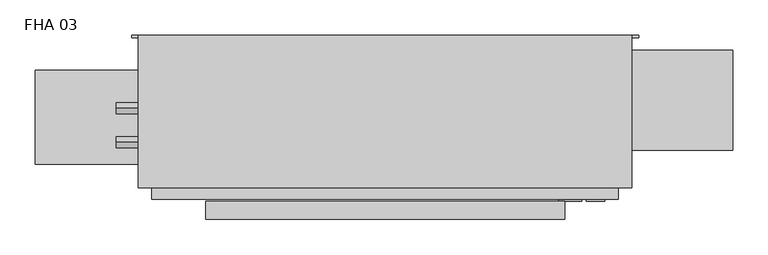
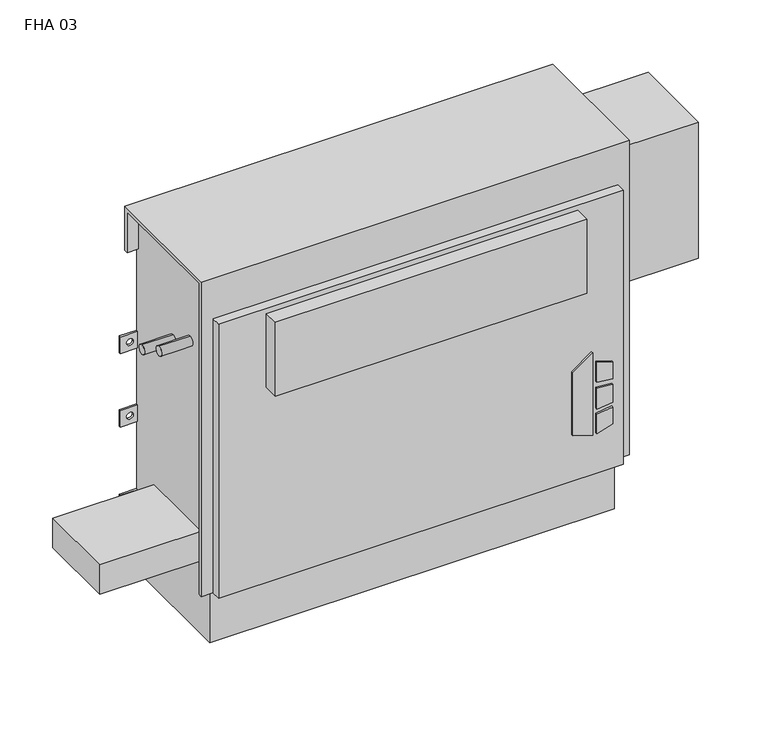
"""IFC4 building model written with IfcOpenShell, lengths in millimetres: proxy geometry, Vertical_Fan_Coil_Unit_-_FHA_-_IEC_-_2-Pipe_FS-FR_LH_2022 : FHA 03."""

import ifcopenshell
import ifcopenshell.guid

model = None  # the IFC model being written
_history = None  # IfcOwnerHistory: only IFC2X3 demands one
_inside = {}  # id of a spatial element -> (the spatial element, [elements in it])
_under = {}  # id of a project, library or spatial element -> (it, [spatial elements below it])
_declared = {}  # id of a project -> (the project, [libraries it declares])
_typed = {}  # id of a type object -> (the type object, [elements of that type])
_made_of = {}  # id of a material, layer set ... -> (it, [elements and type objects made of it])


def new_model(schema):
    """Start an empty IFC model of exactly this schema.

    Asked for "IFC4X3", IfcOpenShell would pick the latest addendum, in which some entities
    have other attributes; the version numbers below select the first issue.
    IFC2X3 requires an IfcOwnerHistory on every rooted entity: one is made here for all.
    """
    global model, _history
    if schema == "IFC4X3":
        model = ifcopenshell.file(schema_version=(4, 3, 0, 0))
    else:
        model = ifcopenshell.file(schema=schema)
    _inside.clear()
    _under.clear()
    _declared.clear()
    _typed.clear()
    _made_of.clear()
    _history = None
    if model.schema == "IFC2X3":
        org = make("IfcOrganization", Name="unknown")
        user = make(
            "IfcPersonAndOrganization",
            ThePerson=make("IfcPerson", FamilyName="unknown"),
            TheOrganization=org,
        )
        app = make(
            "IfcApplication",
            ApplicationDeveloper=org,
            Version="unknown",
            ApplicationFullName="unknown",
            ApplicationIdentifier="unknown",
        )
        _history = make(
            "IfcOwnerHistory",
            OwningUser=user,
            OwningApplication=app,
            ChangeAction="ADDED",
            CreationDate=0,
        )
    return model


def make(cls, **values):
    """One entity of the class cls with the attributes given. An attribute that is None is left unset."""
    return model.create_entity(
        cls, **{name: value for name, value in values.items() if value is not None}
    )


def rooted(cls, **values):
    """An entity with a GlobalId (a new one), such as an element, a storey or a relation."""
    return make(cls, GlobalId=ifcopenshell.guid.new(), OwnerHistory=_history, **values)


def si_unit(unit_type, name, prefix=None):
    """IfcSIUnit, for example si_unit("LENGTHUNIT", "METRE", prefix="MILLI")."""
    return make("IfcSIUnit", UnitType=unit_type, Prefix=prefix, Name=name)


def assignment(units):
    """IfcUnitAssignment: the units of a project."""
    return None if units is None else make("IfcUnitAssignment", Units=units)


def point(xyz):
    """IfcCartesianPoint."""
    return None if xyz is None else make("IfcCartesianPoint", Coordinates=xyz)


def direction(xyz):
    """IfcDirection."""
    return None if xyz is None else make("IfcDirection", DirectionRatios=xyz)


def frame(location, z_axis=None, x_axis=None):
    """IfcAxis2Placement3D, a coordinate frame: its origin and axes. An axis left out is left unset."""
    return make(
        "IfcAxis2Placement3D",
        Location=point(location),
        Axis=direction(z_axis),
        RefDirection=direction(x_axis),
    )


def frame_2d(location, x_axis=None):
    """IfcAxis2Placement2D, a coordinate frame in the plane: its origin and x axis."""
    return make(
        "IfcAxis2Placement2D", Location=point(location), RefDirection=direction(x_axis)
    )


def origin():
    """The frame at (0, 0, 0) with its axes left unset."""
    return frame((0.0, 0.0, 0.0))


def place(relative_to, where):
    """IfcLocalPlacement: puts the frame where relative to a parent placement (None: the world)."""
    return make(
        "IfcLocalPlacement", PlacementRelTo=relative_to, RelativePlacement=where
    )


def context(
    kind, dimensions, precision=None, world=None, true_north=None, identifier=None
):
    """IfcGeometricRepresentationContext, for example the 3D "Model" context."""
    return make(
        "IfcGeometricRepresentationContext",
        ContextIdentifier=identifier,
        ContextType=kind,
        CoordinateSpaceDimension=dimensions,
        Precision=precision,
        WorldCoordinateSystem=world,
        TrueNorth=true_north,
    )


def project(units=None, contexts=None):
    """IfcProject with its units and contexts."""
    return rooted(
        "IfcProject",
        Name="project",
        RepresentationContexts=contexts,
        UnitsInContext=assignment(units),
    )


def spatial(cls, under=None, at=None, **own):
    """A site, building, storey or space (cls), placed at a placement, below another one or the project."""
    s = rooted(cls, ObjectPlacement=at, **own)
    if under is not None:
        _under.setdefault(under.id(), (under, []))[1].append(s)
    return s


def polyline(points):
    """IfcPolyline through the points."""
    return make("IfcPolyline", Points=[point(p) for p in points])


def circle_curve(where, radius):
    """IfcCircle in the frame where."""
    return make("IfcCircle", Position=where, Radius=radius)


def trimmed(basis, trim1, trim2, sense, master):
    """IfcTrimmedCurve: the piece of a basis curve between two trims."""
    return make(
        "IfcTrimmedCurve",
        BasisCurve=basis,
        Trim1=trim1,
        Trim2=trim2,
        SenseAgreement=sense,
        MasterRepresentation=master,
    )


def segment(curve, same_sense, transition):
    """IfcCompositeCurveSegment."""
    return make(
        "IfcCompositeCurveSegment",
        Transition=transition,
        SameSense=same_sense,
        ParentCurve=curve,
    )


def composite_curve(segments, self_intersect=None):
    """IfcCompositeCurve: segments joined end to end."""
    return make("IfcCompositeCurve", Segments=segments, SelfIntersect=self_intersect)


def outline(outer, holes=None, kind="AREA"):
    """IfcArbitraryClosedProfileDef: a profile drawn as a closed curve; with holes, ...WithVoids."""
    if holes is None:
        return make("IfcArbitraryClosedProfileDef", ProfileType=kind, OuterCurve=outer)
    return make(
        "IfcArbitraryProfileDefWithVoids",
        ProfileType=kind,
        OuterCurve=outer,
        InnerCurves=holes,
    )


def extrude(swept, where, along, depth):
    """IfcExtrudedAreaSolid: the profile swept, set in the frame where, extruded along a direction by depth."""
    return make(
        "IfcExtrudedAreaSolid",
        SweptArea=swept,
        Position=where,
        ExtrudedDirection=direction(along),
        Depth=depth,
    )


def shape(context_of_items, identifier, shape_type, items):
    """IfcShapeRepresentation: the items that make up one representation, for example the "Body"."""
    return make(
        "IfcShapeRepresentation",
        ContextOfItems=context_of_items,
        RepresentationIdentifier=identifier,
        RepresentationType=shape_type,
        Items=items,
    )


def source(mapping_origin, context_of_items, identifier, shape_type, items):
    """IfcRepresentationMap: a shape defined once, which mapped items show again and again."""
    return make(
        "IfcRepresentationMap",
        MappingOrigin=mapping_origin,
        MappedRepresentation=shape(context_of_items, identifier, shape_type, items),
    )


def transform(
    local_origin,
    x_axis=None,
    y_axis=None,
    z_axis=None,
    scale=None,
    scale2=None,
    scale3=None,
    uniform=True,
):
    """IfcCartesianTransformationOperator3D, or its non-uniform kind. x_axis, y_axis, z_axis: its Axis1, 2, 3."""
    if uniform:
        return make(
            "IfcCartesianTransformationOperator3D",
            Axis1=direction(x_axis),
            Axis2=direction(y_axis),
            LocalOrigin=point(local_origin),
            Scale=scale,
            Axis3=direction(z_axis),
        )
    return make(
        "IfcCartesianTransformationOperator3DnonUniform",
        Axis1=direction(x_axis),
        Axis2=direction(y_axis),
        LocalOrigin=point(local_origin),
        Scale=scale,
        Axis3=direction(z_axis),
        Scale2=scale2,
        Scale3=scale3,
    )


def mapped(mapping_source, mapping_target):
    """IfcMappedItem: shows the shape of a source again, moved by a transform."""
    return make(
        "IfcMappedItem", MappingSource=mapping_source, MappingTarget=mapping_target
    )


def made_of(thing, what):
    """Note that an element or type object is made of a material, layer set ...; save() writes the relation."""
    if what is not None:
        _made_of.setdefault(what.id(), (what, []))[1].append(thing)
    return thing


def element(
    cls,
    number,
    at=None,
    inside=None,
    cuts=None,
    type_object=None,
    material=None,
    context=None,
    identifier="Body",
    shape_type=None,
    held_by="IfcProductDefinitionShape",
    body=None,
    shapes=None,
    **own,
):
    """One element of the class cls, such as IfcWall. Its Tag is "e" and its number.

    at: its placement. inside: the storey or other place that contains it. cuts: it is an
    opening in that element (IfcRelVoidsElement). A single representation is given by context,
    identifier, shape_type and body (its items); several are given by shapes. held_by: the class
    of the entity that holds the representations. save() writes the other relations.
    """
    e = rooted(cls, Tag="e%d" % number, ObjectPlacement=at, **own)
    if body is not None:
        shapes = [shape(context, identifier, shape_type, body)]
    if shapes is not None:
        e.Representation = make(held_by, Representations=shapes)
    if inside is not None:
        _inside.setdefault(inside.id(), (inside, []))[1].append(e)
    if cuts is not None:
        rooted(
            "IfcRelVoidsElement", RelatingBuildingElement=cuts, RelatedOpeningElement=e
        )
    if type_object is not None:
        _typed.setdefault(type_object.id(), (type_object, []))[1].append(e)
    return made_of(e, material)


def aggregate(whole, parts):
    """IfcRelAggregates: a whole, such as a stair, and the parts it consists of."""
    return rooted("IfcRelAggregates", RelatingObject=whole, RelatedObjects=parts)


def save(model, path):
    """Write the relations noted so far, then the file.

    IfcRelAggregates (storeys below a building ...), IfcRelContainedInSpatialStructure (elements
    in a storey), IfcRelDefinesByType, IfcRelAssociatesMaterial and IfcRelDeclares: one each for
    every whole, place, type object, material and project.
    """
    for whole, parts in _under.values():
        aggregate(whole, parts)
    for where, things in _inside.values():
        rooted(
            "IfcRelContainedInSpatialStructure",
            RelatedElements=things,
            RelatingStructure=where,
        )
    for kind, things in _typed.values():
        rooted("IfcRelDefinesByType", RelatedObjects=things, RelatingType=kind)
    for what, things in _made_of.values():
        rooted("IfcRelAssociatesMaterial", RelatedObjects=things, RelatingMaterial=what)
    for by, libraries in _declared.values():
        rooted("IfcRelDeclares", RelatingContext=by, RelatedDefinitions=libraries)
    model.write(path)


def plane_surface(at):
    """IfcPlane: the flat surface through the origin of the frame at, square to its z axis."""
    return make("IfcPlane", Position=at)


def revolved_surface(curve, axis_point, axis_direction):
    """IfcSurfaceOfRevolution: the curve turned about the line through axis_point along axis_direction."""
    return make(
        "IfcSurfaceOfRevolution",
        SweptCurve=make("IfcArbitraryOpenProfileDef", ProfileType="CURVE", Curve=curve),
        AxisPosition=make("IfcAxis1Placement", Location=point(axis_point), Axis=direction(axis_direction)),
    )


def advanced_brep(points, edges, surfaces, faces):
    """IfcAdvancedBrep: a solid bounded by faces that lie on surfaces and meet in shared edges.

    An edge is (start, end): straight between two places in points (the first is 0);
    or (start, end, curve); or (start, end, curve, False) where it runs against its curve.
    A face is (place in surfaces, loops), or (place, loops, False) where it looks against
    its surface's normal. A loop lists edges by number (the first is 1), with a minus sign
    where the edge is run from its end to its start. The first loop is the outer one.
    """
    corners = [point(p) for p in points]
    vertices = [make("IfcVertexPoint", VertexGeometry=c) for c in corners]
    made = []
    for start, end, *more in edges:
        made.append(
            make(
                "IfcEdgeCurve",
                EdgeStart=vertices[start],
                EdgeEnd=vertices[end],
                EdgeGeometry=more[0] if more else make("IfcPolyline", Points=[corners[start], corners[end]]),
                SameSense=more[1] if len(more) > 1 else True,
            )
        )
    hull = []
    for where, loops, *sense in faces:
        bounds = []
        for j, loop in enumerate(loops):
            ring = [make("IfcOrientedEdge", EdgeElement=made[abs(k) - 1], Orientation=k > 0) for k in loop]
            bounds.append(
                make(
                    "IfcFaceOuterBound" if j == 0 else "IfcFaceBound",
                    Bound=make("IfcEdgeLoop", EdgeList=ring),
                    Orientation=True,
                )
            )
        hull.append(make("IfcAdvancedFace", Bounds=bounds, FaceSurface=surfaces[where], SameSense=sense[0] if sense else True))
    return make("IfcAdvancedBrep", Outer=make("IfcClosedShell", CfsFaces=hull))


def fha_03_dd271106(model_context):
    return source(origin(), model_context, "Body", "SolidModel", [
        extrude(outline(polyline([(172.5771459, 398.5368862), (162.6290756, 430.7102728), (304.8, 430.7102728), (281.7779939, 398.5368862), (172.5771459, 398.5368862)])), frame((0.0, 9.525, 0.0), z_axis=(0.0, 1.0, 0.0), x_axis=(0.0, 0.0, 1.0)), (0.0, 0.0, 1.0), 3.175),
        extrude(outline(polyline([(251.5764313, 437.4686058), (248.3740387, 463.55), (277.6028798, 463.55), (285.6672948, 437.4686058), (251.5764313, 437.4686058)])), frame((0.0, 9.525, 0.0), z_axis=(0.0, 1.0, 0.0), x_axis=(0.0, 0.0, 1.0)), (0.0, 0.0, 1.0), 3.175),
        extrude(outline(polyline([(199.7129044, 463.55), (196.0474034, 437.4686058), (162.6290756, 437.4686058), (171.2633128, 463.55), (199.7129044, 463.55)])), frame((0.0, 9.525, 0.0), z_axis=(0.0, 1.0, 0.0), x_axis=(0.0, 0.0, 1.0)), (0.0, 0.0, 1.0), 3.175),
        extrude(outline(polyline([(239.0280658, 463.55), (241.3098921, 437.4686058), (205.3723436, 437.4686058), (208.1136086, 463.55), (239.0280658, 463.55)])), frame((0.0, 9.525, 0.0), z_axis=(0.0, 1.0, 0.0), x_axis=(0.0, 0.0, 1.0)), (0.0, 0.0, 1.0), 3.175),
        extrude(outline(composite_curve([segment(trimmed(circle_curve(frame_2d((-241.3, 128.5875)), 9.525), [point((-250.825, 128.5875))], [point((-231.775, 128.5875))], False, "CARTESIAN"), True, "CONTINUOUS"), segment(trimmed(circle_curve(frame_2d((-241.3, 128.5875)), 9.525), [point((-231.775, 128.5875))], [point((-250.825, 128.5875))], False, "CARTESIAN"), True, "CONTINUOUS")], self_intersect=False)), frame((0.0, 0.0, 101.6), z_axis=(0.0, 0.0, 1.0), x_axis=(1.0, 0.0, 0.0)), (0.0, 0.0, 1.0), 25.4),
        extrude(outline(polyline([(-342.9, 61.9125), (-342.9, 195.2625), (-177.8, 195.2625), (-177.8, 61.9125), (-342.9, 61.9125)])), frame((0.0, 0.0, 127.0), z_axis=(0.0, 0.0, 1.0), x_axis=(1.0, 0.0, 0.0)), (0.0, 0.0, 1.0), 50.8),
        extrude(outline(polyline([(406.4, -15.875), (-101.6, -15.875), (-101.6, 9.525), (406.4, 9.525), (406.4, -15.875)])), frame((0.0, 0.0, 431.8), z_axis=(0.0, 0.0, 1.0), x_axis=(1.0, 0.0, 0.0)), (0.0, 0.0, 1.0), 127.0),
        extrude(outline(composite_curve([segment(trimmed(circle_curve(frame_2d((93.1926, 488.0102)), 7.9375), [point((93.1926, 495.9477))], [point((93.1926, 480.0727))], False, "CARTESIAN"), True, "CONTINUOUS"), segment(trimmed(circle_curve(frame_2d((93.1926, 488.0102)), 7.9375), [point((93.1926, 480.0727))], [point((93.1926, 495.9477))], False, "CARTESIAN"), True, "CONTINUOUS")], self_intersect=False)), frame((-228.6, 0.0, 0.0), z_axis=(1.0, 0.0, 0.0), x_axis=(0.0, 1.0, 0.0)), (0.0, 0.0, 1.0), 50.8),
        extrude(outline(composite_curve([segment(trimmed(circle_curve(frame_2d((141.3002, 461.3402)), 7.9375), [point((141.3002, 469.2777))], [point((141.3002, 453.4027))], False, "CARTESIAN"), True, "CONTINUOUS"), segment(trimmed(circle_curve(frame_2d((141.3002, 461.3402)), 7.9375), [point((141.3002, 453.4027))], [point((141.3002, 469.2777))], False, "CARTESIAN"), True, "CONTINUOUS")], self_intersect=False)), frame((-228.6, 0.0, 0.0), z_axis=(1.0, 0.0, 0.0), x_axis=(0.0, 1.0, 0.0)), (0.0, 0.0, 1.0), 50.8),
        extrude(outline(polyline([(644.525, 223.266), (644.525, 81.534), (482.6, 81.534), (482.6, 223.266), (644.525, 223.266)])), frame((0.0, 0.0, 349.25), z_axis=(0.0, 0.0, 1.0), x_axis=(1.0, 0.0, 0.0)), (0.0, 0.0, 1.0), 234.95),
        advanced_brep(
        [(501.65, 244.475, 635.0), (-196.85, 244.475, 635.0), (-196.85, 28.575, 635.0), (501.65, 28.575, 635.0), (-177.8, 244.475, 0.0), (482.6, 244.475, 0.0), (482.6, 38.1, 0.0), (-177.8, 38.1, 0.0), (501.65, 244.475, 558.8), (482.6, 244.475, 558.8), (482.6, 244.475, 414.3375), (511.175, 244.475, 414.3375), (511.175, 244.475, 385.7625), (482.6, 244.475, 385.7625), (482.6, 244.475, 287.3375), (511.175, 244.475, 287.3375), (511.175, 244.475, 258.7625), (482.6, 244.475, 258.7625), (482.6, 244.475, 141.2875), (511.175, 244.475, 141.2875), (511.175, 244.475, 112.7125), (482.6, 244.475, 112.7125), (-177.8, 244.475, 112.7125), (-206.375, 244.475, 112.7125), (-206.375, 244.475, 141.2875), (-177.8, 244.475, 141.2875), (-177.8, 244.475, 258.7625), (-206.375, 244.475, 258.7625), (-206.375, 244.475, 287.3375), (-177.8, 244.475, 287.3375), (-177.8, 244.475, 385.7625), (-206.375, 244.475, 385.7625), (-206.375, 244.475, 414.3375), (-177.8, 244.475, 414.3375), (-177.8, 244.475, 558.8), (-196.85, 244.475, 558.8), (500.8626, 244.475, 127.0), (489.7374, 244.475, 127.0), (-184.9374, 244.475, 127.0), (-196.0626, 244.475, 127.0), (500.8626, 244.475, 273.05), (489.7374, 244.475, 273.05), (-184.9374, 244.475, 273.05), (-196.0626, 244.475, 273.05), (500.8626, 244.475, 400.05), (489.7374, 244.475, 400.05), (-184.9374, 244.475, 400.05), (-196.0626, 244.475, 400.05), (-196.85, 238.125, 558.8), (-196.85, 238.125, 628.65), (-196.85, 34.925, 628.65), (-196.85, 34.925, 92.075), (-196.85, 28.575, 92.075), (482.6, 12.7, 565.15), (-177.8, 12.7, 565.15), (-177.8, 12.7, 92.075), (482.6, 12.7, 92.075), (501.65, 28.575, 92.075), (501.65, 34.925, 92.075), (501.65, 34.925, 628.65), (501.65, 238.125, 628.65), (501.65, 238.125, 558.8), (-177.8, 28.575, 92.075), (-177.8, 28.575, 565.15), (482.6, 28.575, 565.15), (482.6, 28.575, 92.075), (-177.8, 34.925, 92.075), (-177.8, 38.1, 92.075), (482.6, 38.1, 92.075), (482.6, 34.925, 92.075), (482.6, 241.3, 112.7125), (482.6, 241.3, 141.2875), (482.6, 241.3, 258.7625), (482.6, 241.3, 287.3375), (482.6, 241.3, 385.7625), (482.6, 241.3, 414.3375), (482.6, 238.125, 558.8), (482.6, 238.125, 628.65), (482.6, 34.925, 628.65), (-177.8, 34.925, 628.65), (-177.8, 238.125, 628.65), (-177.8, 238.125, 558.8), (-177.8, 241.3, 414.3375), (-177.8, 241.3, 385.7625), (-177.8, 241.3, 287.3375), (-177.8, 241.3, 258.7625), (-177.8, 241.3, 141.2875), (-177.8, 241.3, 112.7125), (511.175, 241.3, 112.7125), (511.175, 241.3, 141.2875), (489.7374, 241.3, 127.0), (500.8626, 241.3, 127.0), (511.175, 241.3, 258.7625), (511.175, 241.3, 287.3375), (489.7374, 241.3, 273.05), (500.8626, 241.3, 273.05), (511.175, 241.3, 385.7625), (511.175, 241.3, 414.3375), (489.7374, 241.3, 400.05), (500.8626, 241.3, 400.05), (-206.375, 241.3, 141.2875), (-206.375, 241.3, 112.7125), (-196.0626, 241.3, 127.0), (-184.9374, 241.3, 127.0), (-206.375, 241.3, 287.3375), (-206.375, 241.3, 258.7625), (-196.0626, 241.3, 273.05), (-184.9374, 241.3, 273.05), (-206.375, 241.3, 414.3375), (-206.375, 241.3, 385.7625), (-196.0626, 241.3, 400.05), (-184.9374, 241.3, 400.05)],
        [
            (0, 1),
            (1, 2),
            (2, 3),
            (3, 0),
            (4, 5),
            (5, 6),
            (6, 7),
            (7, 4),
            (0, 8),
            (8, 9),
            (9, 10),
            (10, 11),
            (11, 12),
            (12, 13),
            (13, 14),
            (14, 15),
            (15, 16),
            (16, 17),
            (17, 18),
            (18, 19),
            (19, 20),
            (20, 21),
            (21, 5),
            (4, 22),
            (22, 23),
            (23, 24),
            (24, 25),
            (25, 26),
            (26, 27),
            (27, 28),
            (28, 29),
            (29, 30),
            (30, 31),
            (31, 32),
            (32, 33),
            (33, 34),
            (34, 35),
            (35, 1),
            (36, 37, circle_curve(frame((495.3, 244.475, 127.0), z_axis=(0.0, -1.0, 0.0), x_axis=(-1.0, 0.0, 0.0)), 5.5626)),
            (37, 36, circle_curve(frame((495.3, 244.475, 127.0), z_axis=(0.0, -1.0, 0.0), x_axis=(-1.0, 0.0, 0.0)), 5.5626)),
            (38, 39, circle_curve(frame((-190.5, 244.475, 127.0), z_axis=(0.0, -1.0, 0.0), x_axis=(-1.0, 0.0, 0.0)), 5.5626)),
            (39, 38, circle_curve(frame((-190.5, 244.475, 127.0), z_axis=(0.0, -1.0, 0.0), x_axis=(-1.0, 0.0, 0.0)), 5.5626)),
            (40, 41, circle_curve(frame((495.3, 244.475, 273.05), z_axis=(0.0, -1.0, 0.0), x_axis=(-1.0, 0.0, 0.0)), 5.5626)),
            (41, 40, circle_curve(frame((495.3, 244.475, 273.05), z_axis=(0.0, -1.0, 0.0), x_axis=(-1.0, 0.0, 0.0)), 5.5626)),
            (42, 43, circle_curve(frame((-190.5, 244.475, 273.05), z_axis=(0.0, -1.0, 0.0), x_axis=(-1.0, 0.0, 0.0)), 5.5626)),
            (43, 42, circle_curve(frame((-190.5, 244.475, 273.05), z_axis=(0.0, -1.0, 0.0), x_axis=(-1.0, 0.0, 0.0)), 5.5626)),
            (44, 45, circle_curve(frame((495.3, 244.475, 400.05), z_axis=(0.0, -1.0, 0.0), x_axis=(-1.0, 0.0, 0.0)), 5.5626)),
            (45, 44, circle_curve(frame((495.3, 244.475, 400.05), z_axis=(0.0, -1.0, 0.0), x_axis=(-1.0, 0.0, 0.0)), 5.5626)),
            (46, 47, circle_curve(frame((-190.5, 244.475, 400.05), z_axis=(0.0, -1.0, 0.0), x_axis=(-1.0, 0.0, 0.0)), 5.5626)),
            (47, 46, circle_curve(frame((-190.5, 244.475, 400.05), z_axis=(0.0, -1.0, 0.0), x_axis=(-1.0, 0.0, 0.0)), 5.5626)),
            (35, 48),
            (48, 49),
            (49, 50),
            (50, 51),
            (51, 52),
            (52, 2),
            (53, 54),
            (54, 55),
            (55, 56),
            (56, 53),
            (3, 57),
            (57, 58),
            (58, 59),
            (59, 60),
            (60, 61),
            (61, 8),
            (52, 62),
            (62, 63),
            (63, 64),
            (64, 65),
            (65, 57),
            (53, 64),
            (63, 54),
            (55, 62),
            (51, 66),
            (66, 67),
            (67, 68),
            (68, 69),
            (69, 58),
            (65, 56),
            (6, 68),
            (67, 7),
            (21, 70),
            (70, 71),
            (71, 18),
            (17, 72),
            (72, 73),
            (73, 14),
            (13, 74),
            (74, 75),
            (75, 10),
            (9, 76),
            (76, 77),
            (77, 78),
            (78, 69),
            (66, 79),
            (79, 80),
            (80, 81),
            (81, 34),
            (33, 82),
            (82, 83),
            (83, 30),
            (29, 84),
            (84, 85),
            (85, 26),
            (25, 86),
            (86, 87),
            (87, 22),
            (76, 61),
            (60, 77),
            (78, 59),
            (50, 79),
            (81, 48),
            (80, 49),
            (70, 88),
            (88, 89),
            (89, 71),
            (90, 91, circle_curve(frame((495.3, 241.3, 127.0), z_axis=(0.0, 1.0, 0.0), x_axis=(-1.0, 0.0, 0.0)), 5.5626)),
            (91, 90, circle_curve(frame((495.3, 241.3, 127.0), z_axis=(0.0, 1.0, 0.0), x_axis=(-1.0, 0.0, 0.0)), 5.5626)),
            (92, 93),
            (93, 73),
            (72, 92),
            (94, 95, circle_curve(frame((495.3, 241.3, 273.05), z_axis=(0.0, 1.0, 0.0), x_axis=(-1.0, 0.0, 0.0)), 5.5626)),
            (95, 94, circle_curve(frame((495.3, 241.3, 273.05), z_axis=(0.0, 1.0, 0.0), x_axis=(-1.0, 0.0, 0.0)), 5.5626)),
            (96, 97),
            (97, 75),
            (74, 96),
            (98, 99, circle_curve(frame((495.3, 241.3, 400.05), z_axis=(0.0, 1.0, 0.0), x_axis=(-1.0, 0.0, 0.0)), 5.5626)),
            (99, 98, circle_curve(frame((495.3, 241.3, 400.05), z_axis=(0.0, 1.0, 0.0), x_axis=(-1.0, 0.0, 0.0)), 5.5626)),
            (100, 101),
            (101, 87),
            (86, 100),
            (102, 103, circle_curve(frame((-190.5, 241.3, 127.0), z_axis=(0.0, 1.0, 0.0), x_axis=(-1.0, 0.0, 0.0)), 5.5626)),
            (103, 102, circle_curve(frame((-190.5, 241.3, 127.0), z_axis=(0.0, 1.0, 0.0), x_axis=(-1.0, 0.0, 0.0)), 5.5626)),
            (84, 104),
            (104, 105),
            (105, 85),
            (106, 107, circle_curve(frame((-190.5, 241.3, 273.05), z_axis=(0.0, 1.0, 0.0), x_axis=(-1.0, 0.0, 0.0)), 5.5626)),
            (107, 106, circle_curve(frame((-190.5, 241.3, 273.05), z_axis=(0.0, 1.0, 0.0), x_axis=(-1.0, 0.0, 0.0)), 5.5626)),
            (108, 109),
            (109, 83),
            (82, 108),
            (110, 111, circle_curve(frame((-190.5, 241.3, 400.05), z_axis=(0.0, 1.0, 0.0), x_axis=(-1.0, 0.0, 0.0)), 5.5626)),
            (111, 110, circle_curve(frame((-190.5, 241.3, 400.05), z_axis=(0.0, 1.0, 0.0), x_axis=(-1.0, 0.0, 0.0)), 5.5626)),
            (89, 19),
            (88, 20),
            (16, 92),
            (93, 15),
            (12, 96),
            (97, 11),
            (24, 100),
            (101, 23),
            (105, 27),
            (104, 28),
            (32, 108),
            (109, 31),
            (90, 37),
            (36, 91),
            (102, 39),
            (38, 103),
            (94, 41),
            (40, 95),
            (106, 43),
            (42, 107),
            (98, 45),
            (44, 99),
            (110, 47),
            (46, 111),
        ],
        [
            plane_surface(frame((-196.85, 244.475, 635.0), z_axis=(0.0, 0.0, 1.0), x_axis=(-1.0, 0.0, 0.0))),
            plane_surface(frame((-196.85, 244.475, 0.0), z_axis=(0.0, 0.0, -1.0), x_axis=(1.0, 0.0, 0.0))),
            plane_surface(frame((501.65, 244.475, 635.0), z_axis=(0.0, 1.0, 0.0), x_axis=(0.0, 0.0, -1.0))),
            plane_surface(frame((-196.85, 244.475, 635.0), z_axis=(-1.0, 0.0, 0.0), x_axis=(0.0, 0.0, -1.0))),
            plane_surface(frame((-196.85, 12.7, 635.0), z_axis=(0.0, -1.0, 0.0), x_axis=(0.0, 0.0, -1.0))),
            plane_surface(frame((501.65, 12.7, 635.0), z_axis=(1.0, 0.0, 0.0), x_axis=(0.0, 0.0, -1.0))),
            plane_surface(frame((-247.65, 28.575, 635.0), z_axis=(0.0, -1.0, 0.0), x_axis=(1.0, 0.0, 0.0))),
            plane_surface(frame((-247.65, 28.575, 565.15), z_axis=(0.0, 0.0, 1.0), x_axis=(1.0, 0.0, 0.0))),
            plane_surface(frame((-196.85, 12.7, 92.075), z_axis=(0.0, 0.0, -1.0), x_axis=(1.0, 0.0, 0.0))),
            plane_surface(frame((-196.85, 38.1, 92.075), z_axis=(0.0, -1.0, 0.0), x_axis=(1.0, 0.0, 0.0))),
            plane_surface(frame((482.6, 28.575, 92.075), z_axis=(1.0, 0.0, 0.0), x_axis=(0.0, -1.0, 0.0))),
            plane_surface(frame((-177.8, 28.575, 565.15), z_axis=(-1.0, 0.0, 0.0), x_axis=(0.0, -1.0, 0.0))),
            plane_surface(frame((482.6, 244.475, 0.0), z_axis=(1.0, 0.0, 0.0), x_axis=(0.0, -1.0, 0.0))),
            plane_surface(frame((-177.8, 244.475, 92.075), z_axis=(-1.0, 0.0, 0.0), x_axis=(0.0, -1.0, 0.0))),
            plane_surface(frame((482.6, 238.125, 628.65), z_axis=(0.0, -1.0, 0.0), x_axis=(1.0, 0.0, 0.0))),
            plane_surface(frame((482.6, 238.125, 558.8), z_axis=(0.0, 0.0, -1.0), x_axis=(1.0, 0.0, 0.0))),
            plane_surface(frame((482.6, 34.925, 92.075), z_axis=(0.0, 1.0, 0.0), x_axis=(1.0, 0.0, 0.0))),
            plane_surface(frame((482.6, 34.925, 628.65), z_axis=(0.0, 0.0, -1.0), x_axis=(1.0, 0.0, 0.0))),
            plane_surface(frame((-177.8, 34.925, 628.65), z_axis=(0.0, 1.0, 0.0), x_axis=(-1.0, 0.0, 0.0))),
            plane_surface(frame((-177.8, 244.475, 558.8), z_axis=(0.0, 0.0, -1.0), x_axis=(-1.0, 0.0, 0.0))),
            plane_surface(frame((-177.8, 238.125, 558.8), z_axis=(0.0, -1.0, 0.0), x_axis=(-1.0, 0.0, 0.0))),
            plane_surface(frame((-177.8, 238.125, 628.65), z_axis=(0.0, 0.0, -1.0), x_axis=(-1.0, 0.0, 0.0))),
            plane_surface(frame((511.175, 241.3, 141.2875), z_axis=(0.0, -1.0, 0.0), x_axis=(-1.0, 0.0, 0.0))),
            plane_surface(frame((482.6, 244.475, 141.2875), z_axis=(0.0, 0.0, 1.0), x_axis=(0.0, -1.0, 0.0))),
            plane_surface(frame((511.175, 244.475, 141.2875), z_axis=(1.0, 0.0, 0.0), x_axis=(0.0, -1.0, 0.0))),
            plane_surface(frame((511.175, 244.475, 112.7125), z_axis=(0.0, 0.0, -1.0), x_axis=(0.0, -1.0, 0.0))),
            plane_surface(frame((511.175, 244.475, 258.7625), z_axis=(0.0, 0.0, -1.0), x_axis=(0.0, -1.0, 0.0))),
            plane_surface(frame((482.6, 244.475, 287.3375), z_axis=(0.0, 0.0, 1.0), x_axis=(0.0, -1.0, 0.0))),
            plane_surface(frame((511.175, 244.475, 287.3375), z_axis=(1.0, 0.0, 0.0), x_axis=(0.0, -1.0, 0.0))),
            plane_surface(frame((511.175, 244.475, 385.7625), z_axis=(0.0, 0.0, -1.0), x_axis=(0.0, -1.0, 0.0))),
            plane_surface(frame((482.6, 244.475, 414.3375), z_axis=(0.0, 0.0, 1.0), x_axis=(0.0, -1.0, 0.0))),
            plane_surface(frame((511.175, 244.475, 414.3375), z_axis=(1.0, 0.0, 0.0), x_axis=(0.0, -1.0, 0.0))),
            plane_surface(frame((-206.375, 244.475, 141.2875), z_axis=(0.0, 0.0, 1.0), x_axis=(0.0, -1.0, 0.0))),
            plane_surface(frame((-177.8, 244.475, 112.7125), z_axis=(0.0, 0.0, -1.0), x_axis=(0.0, -1.0, 0.0))),
            plane_surface(frame((-206.375, 244.475, 112.7125), z_axis=(-1.0, 0.0, 0.0), x_axis=(0.0, -1.0, 0.0))),
            plane_surface(frame((-177.8, 244.475, 258.7625), z_axis=(0.0, 0.0, -1.0), x_axis=(0.0, -1.0, 0.0))),
            plane_surface(frame((-206.375, 244.475, 258.7625), z_axis=(-1.0, 0.0, 0.0), x_axis=(0.0, -1.0, 0.0))),
            plane_surface(frame((-206.375, 244.475, 287.3375), z_axis=(0.0, 0.0, 1.0), x_axis=(0.0, -1.0, 0.0))),
            plane_surface(frame((-206.375, 244.475, 414.3375), z_axis=(0.0, 0.0, 1.0), x_axis=(0.0, -1.0, 0.0))),
            plane_surface(frame((-177.8, 244.475, 385.7625), z_axis=(0.0, 0.0, -1.0), x_axis=(0.0, -1.0, 0.0))),
            plane_surface(frame((-206.375, 244.475, 385.7625), z_axis=(-1.0, 0.0, 0.0), x_axis=(0.0, -1.0, 0.0))),
            revolved_surface(polyline([(489.73740000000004, 241.3, 127.0), (489.73740000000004, 244.475, 127.0)]), (495.3, 244.475, 127.0), (0.0, -1.0, 0.0)),
            revolved_surface(polyline([(-196.0626, 241.3, 127.0), (-196.0626, 244.475, 127.0)]), (-190.5, 244.475, 127.0), (0.0, -1.0, 0.0)),
            revolved_surface(polyline([(489.73740000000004, 241.3, 273.05), (489.73740000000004, 244.475, 273.05)]), (495.3, 244.475, 273.05), (0.0, -1.0, 0.0)),
            revolved_surface(polyline([(-196.0626, 241.3, 273.05), (-196.0626, 244.475, 273.05)]), (-190.5, 244.475, 273.05), (0.0, -1.0, 0.0)),
            revolved_surface(polyline([(489.73740000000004, 241.3, 400.05), (489.73740000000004, 244.475, 400.05)]), (495.3, 244.475, 400.05), (0.0, -1.0, 0.0)),
            revolved_surface(polyline([(-196.0626, 241.3, 400.05), (-196.0626, 244.475, 400.05)]), (-190.5, 244.475, 400.05), (0.0, -1.0, 0.0)),
        ],
        [
            (0, [[1, 2, 3, 4]]),
            (1, [[5, 6, 7, 8]]),
            (2, [[-1, 9, 10, 11, 12, 13, 14, 15, 16, 17, 18, 19, 20, 21, 22, 23, -5, 24, 25, 26, 27, 28, 29, 30, 31, 32, 33, 34, 35, 36, 37, 38], [39, 40], [41, 42], [43, 44], [45, 46], [47, 48], [49, 50]]),
            (3, [[-2, -38, 51, 52, 53, 54, 55, 56]]),
            (4, [[57, 58, 59, 60]]),
            (5, [[-4, 61, 62, 63, 64, 65, 66, -9]]),
            (6, [[-3, -56, 67, 68, 69, 70, 71, -61]]),
            (7, [[-57, 72, -69, 73]]),
            (8, [[-59, 74, -67, -55, 75, 76, 77, 78, 79, -62, -71, 80]]),
            (9, [[-7, 81, -77, 82]]),
            (10, [[-70, -72, -60, -80]]),
            (11, [[-68, -74, -58, -73]]),
            (12, [[-6, -23, 83, 84, 85, -19, 86, 87, 88, -15, 89, 90, 91, -11, 92, 93, 94, 95, -78, -81]]),
            (13, [[-8, -82, -76, 96, 97, 98, 99, -36, 100, 101, 102, -32, 103, 104, 105, -28, 106, 107, 108, -24]]),
            (14, [[-93, 109, -65, 110]]),
            (15, [[-92, -10, -66, -109]]),
            (16, [[-95, 111, -63, -79]]),
            (17, [[-94, -110, -64, -111]]),
            (18, [[-96, -75, -54, 112]]),
            (19, [[-99, 113, -51, -37]]),
            (20, [[-98, 114, -52, -113]]),
            (21, [[-97, -112, -53, -114]]),
            (22, [[115, 116, 117, -84], [118, 119]]),
            (22, [[120, 121, -87, 122], [123, 124]]),
            (22, [[125, 126, -90, 127], [128, 129]]),
            (22, [[130, 131, -107, 132], [133, 134]]),
            (22, [[135, 136, 137, -104], [138, 139]]),
            (22, [[140, 141, -101, 142], [143, 144]]),
            (23, [[-117, 145, -20, -85]]),
            (24, [[-116, 146, -21, -145]]),
            (25, [[-115, -83, -22, -146]]),
            (26, [[-122, -86, -18, 147]]),
            (27, [[-121, 148, -16, -88]]),
            (28, [[-120, -147, -17, -148]]),
            (29, [[-127, -89, -14, 149]]),
            (30, [[-126, 150, -12, -91]]),
            (31, [[-125, -149, -13, -150]]),
            (32, [[-132, -106, -27, 151]]),
            (33, [[-131, 152, -25, -108]]),
            (34, [[-130, -151, -26, -152]]),
            (35, [[-137, 153, -29, -105]]),
            (36, [[-136, 154, -30, -153]]),
            (37, [[-135, -103, -31, -154]]),
            (38, [[-142, -100, -35, 155]]),
            (39, [[-141, 156, -33, -102]]),
            (40, [[-140, -155, -34, -156]]),
            (41, [[157, -39, 158, -118]]),
            (41, [[-157, -119, -158, -40]]),
            (42, [[159, -41, 160, -133]]),
            (42, [[-159, -134, -160, -42]]),
            (43, [[161, -43, 162, -123]]),
            (43, [[-161, -124, -162, -44]]),
            (44, [[163, -45, 164, -138]]),
            (44, [[-163, -139, -164, -46]]),
            (45, [[165, -47, 166, -128]]),
            (45, [[-165, -129, -166, -48]]),
            (46, [[167, -49, 168, -143]]),
            (46, [[-167, -144, -168, -50]]),
        ],
    ),
    ])


if __name__ == "__main__":
    model = new_model("IFC4")
    model_context = context("Model", 3, world=origin())
    ifc_project = project(units=[si_unit("LENGTHUNIT", "METRE", prefix="MILLI")], contexts=[model_context])
    site = spatial("IfcSite", under=ifc_project)
    building = spatial("IfcBuilding", under=site)
    placement = place(None, origin())
    fha_03_shape = fha_03_dd271106(model_context)
    element("IfcBuildingElementProxy", 1, Name="Vertical_Fan_Coil_Unit_-_FHA_-_IEC_-_2-Pipe_FS-FR_LH_2022 : FHA 03", ObjectType="Vertical_Fan_Coil_Unit_-_FHA_-_IEC_-_2-Pipe_FS-FR_LH_2022 : FHA 03", at=placement, inside=building, context=model_context, shape_type="MappedRepresentation", body=[
        mapped(fha_03_shape, transform((0.0, 0.0, 0.0), x_axis=(1.0, 0.0, 0.0), y_axis=(0.0, 1.0, 0.0), z_axis=(0.0, 0.0, 1.0))),
    ])
    save(model, "model.ifc")
